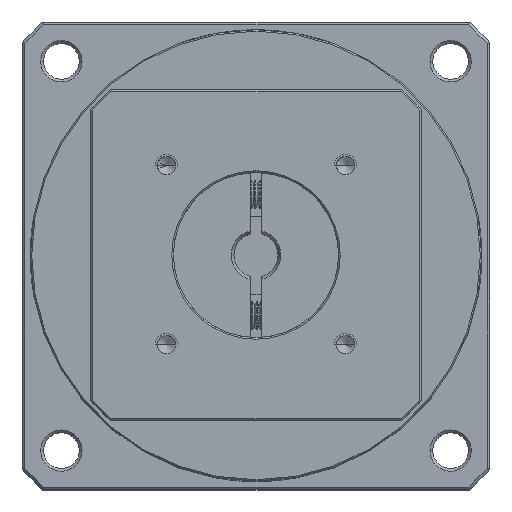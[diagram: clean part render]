
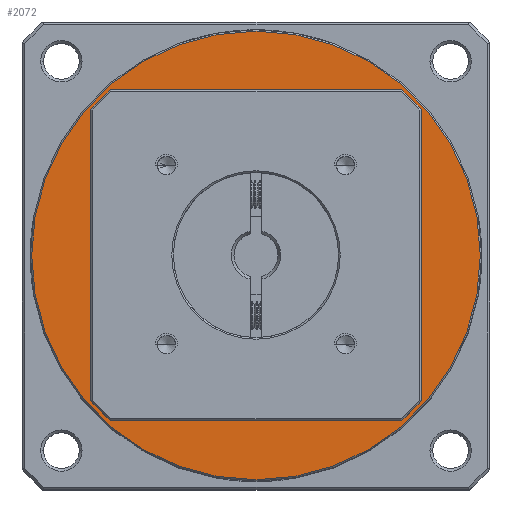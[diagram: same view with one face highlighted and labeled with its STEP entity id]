
A CAD part, top view. The second image highlights one B-rep face of the part: STEP entity #2072.
In plain terms, the highlighted planar face has unit normal (0, 0, 1).
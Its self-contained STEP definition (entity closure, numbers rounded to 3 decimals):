
#1999 = DIRECTION ( 'NONE',  ( 0., 0., 1. ) ) ;
#2072 = ADVANCED_FACE ( 'NONE', ( #35274, #9420 ), #86869, .T. ) ;
#7565 = DIRECTION ( 'NONE',  ( 1., 0., 0. ) ) ;
#7866 = VERTEX_POINT ( 'NONE', #24096 ) ;
#9420 = FACE_OUTER_BOUND ( 'NONE', #64189, .T. ) ;
#17395 = DIRECTION ( 'NONE',  ( 0., 0., 1. ) ) ;
#19470 = CIRCLE ( 'NONE', #88843, 40.75 ) ;
#23119 = CARTESIAN_POINT ( 'NONE',  ( -35.942, 55.161, -50.786 ) ) ;
#24096 = CARTESIAN_POINT ( 'NONE',  ( -106.692, 55.161, -50.786 ) ) ;
#35274 = FACE_BOUND ( 'NONE', #113761, .T. ) ;
#37445 = CARTESIAN_POINT ( 'NONE',  ( -46.692, 55.161, -50.786 ) ) ;
#39099 = DIRECTION ( 'NONE',  ( 1., 0., 0. ) ) ;
#42227 = AXIS2_PLACEMENT_3D ( 'NONE', #97548, #67641, #39099 ) ;
#46773 = AXIS2_PLACEMENT_3D ( 'NONE', #80812, #1999, #50910 ) ;
#48015 = DIRECTION ( 'NONE',  ( 1., 0., 0. ) ) ;
#50910 = DIRECTION ( 'NONE',  ( 1., 0., 0. ) ) ;
#57037 = DIRECTION ( 'NONE',  ( 0., 0., 1. ) ) ;
#61713 = ORIENTED_EDGE ( 'NONE', *, *, #86526, .T. ) ;
#61769 = CIRCLE ( 'NONE', #96505, 30. ) ;
#64189 = EDGE_LOOP ( 'NONE', ( #66757, #61713 ) ) ;
#66757 = ORIENTED_EDGE ( 'NONE', *, *, #83338, .T. ) ;
#67641 = DIRECTION ( 'NONE',  ( 0., 0., 1. ) ) ;
#75987 = CIRCLE ( 'NONE', #46773, 40.75 ) ;
#78733 = CARTESIAN_POINT ( 'NONE',  ( -76.692, 55.161, -50.786 ) ) ;
#80812 = CARTESIAN_POINT ( 'NONE',  ( -76.692, 55.161, -50.786 ) ) ;
#82030 = CARTESIAN_POINT ( 'NONE',  ( -117.442, 55.161, -50.786 ) ) ;
#83338 = EDGE_CURVE ( 'NONE', #93039, #113656, #19470, .T. ) ;
#85925 = EDGE_CURVE ( 'NONE', #103663, #7866, #123610, .T. ) ;
#86526 = EDGE_CURVE ( 'NONE', #113656, #93039, #75987, .T. ) ;
#86869 = PLANE ( 'NONE',  #42227 ) ;
#88843 = AXIS2_PLACEMENT_3D ( 'NONE', #78733, #97547, #48015 ) ;
#91166 = EDGE_CURVE ( 'NONE', #7866, #103663, #61769, .T. ) ;
#93039 = VERTEX_POINT ( 'NONE', #82030 ) ;
#94491 = CARTESIAN_POINT ( 'NONE',  ( -76.692, 55.161, -50.786 ) ) ;
#95917 = DIRECTION ( 'NONE',  ( 1., 0., 0. ) ) ;
#96505 = AXIS2_PLACEMENT_3D ( 'NONE', #94491, #17395, #7565 ) ;
#97547 = DIRECTION ( 'NONE',  ( 0., 0., 1. ) ) ;
#97548 = CARTESIAN_POINT ( 'NONE',  ( -76.692, 55.161, -50.786 ) ) ;
#98209 = AXIS2_PLACEMENT_3D ( 'NONE', #105360, #57037, #95917 ) ;
#103663 = VERTEX_POINT ( 'NONE', #37445 ) ;
#105360 = CARTESIAN_POINT ( 'NONE',  ( -76.692, 55.161, -50.786 ) ) ;
#105512 = ORIENTED_EDGE ( 'NONE', *, *, #85925, .F. ) ;
#113656 = VERTEX_POINT ( 'NONE', #23119 ) ;
#113761 = EDGE_LOOP ( 'NONE', ( #117067, #105512 ) ) ;
#117067 = ORIENTED_EDGE ( 'NONE', *, *, #91166, .F. ) ;
#123610 = CIRCLE ( 'NONE', #98209, 30. ) ;
